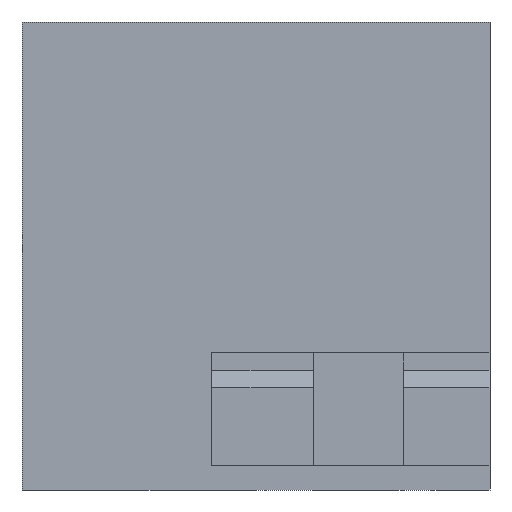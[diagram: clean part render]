
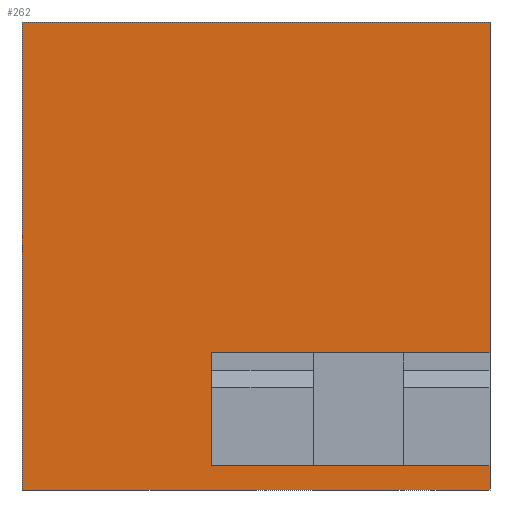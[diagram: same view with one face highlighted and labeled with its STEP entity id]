
A CAD part, left-side view. The second image highlights one B-rep face of the part: STEP entity #262.
In plain terms, the highlighted planar face has unit normal (-1, 0, 0).
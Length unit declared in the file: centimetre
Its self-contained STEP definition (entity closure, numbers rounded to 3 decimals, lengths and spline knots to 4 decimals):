
#3 = LINE ( 'NONE', #930, #126 ) ;
#19 = VERTEX_POINT ( 'NONE', #541 ) ;
#39 = PLANE ( 'NONE',  #653 ) ;
#46 = DIRECTION ( 'NONE',  ( 0., 0., -1. ) ) ;
#60 = CARTESIAN_POINT ( 'NONE',  ( 0., 594.4947, 51.8171 ) ) ;
#65 = VERTEX_POINT ( 'NONE', #144 ) ;
#74 = VERTEX_POINT ( 'NONE', #60 ) ;
#86 = ORIENTED_EDGE ( 'NONE', *, *, #1034, .T. ) ;
#90 = LINE ( 'NONE', #964, #710 ) ;
#91 = VECTOR ( 'NONE', #902, 100. ) ;
#102 = EDGE_CURVE ( 'NONE', #842, #74, #90, .T. ) ;
#108 = VERTEX_POINT ( 'NONE', #500 ) ;
#125 = DIRECTION ( 'NONE',  ( 0., -1., 0. ) ) ;
#126 = VECTOR ( 'NONE', #819, 100. ) ;
#135 = ORIENTED_EDGE ( 'NONE', *, *, #957, .T. ) ;
#144 = CARTESIAN_POINT ( 'NONE',  ( 0., 1000., 1000. ) ) ;
#162 = CARTESIAN_POINT ( 'NONE',  ( 0., 1000., 1000. ) ) ;
#173 = FACE_OUTER_BOUND ( 'NONE', #213, .T. ) ;
#207 = EDGE_CURVE ( 'NONE', #108, #19, #632, .T. ) ;
#213 = EDGE_LOOP ( 'NONE', ( #962, #830, #1032, #824, #86, #135, #1074, #872 ) ) ;
#229 = EDGE_CURVE ( 'NONE', #74, #1003, #850, .T. ) ;
#238 = CARTESIAN_POINT ( 'NONE',  ( 0., 0., 51.8171 ) ) ;
#243 = LINE ( 'NONE', #162, #420 ) ;
#262 = ADVANCED_FACE ( 'NONE', ( #173 ), #39, .F. ) ;
#296 = EDGE_CURVE ( 'NONE', #842, #19, #624, .T. ) ;
#352 = VERTEX_POINT ( 'NONE', #578 ) ;
#372 = DIRECTION ( 'NONE',  ( 0., 0., -1. ) ) ;
#397 = VECTOR ( 'NONE', #46, 100. ) ;
#401 = LINE ( 'NONE', #591, #91 ) ;
#420 = VECTOR ( 'NONE', #482, 100. ) ;
#428 = CARTESIAN_POINT ( 'NONE',  ( 0., 0., 1000. ) ) ;
#429 = DIRECTION ( 'NONE',  ( 0., -1., 0. ) ) ;
#455 = DIRECTION ( 'NONE',  ( 1., 0., 0. ) ) ;
#482 = DIRECTION ( 'NONE',  ( 0., 0., -1. ) ) ;
#500 = CARTESIAN_POINT ( 'NONE',  ( 0., 0., 1000. ) ) ;
#528 = CARTESIAN_POINT ( 'NONE',  ( 0., 0., 1000. ) ) ;
#532 = CARTESIAN_POINT ( 'NONE',  ( 0., 1000., 1000. ) ) ;
#538 = CARTESIAN_POINT ( 'NONE',  ( 0., 594.4947, 293.6493 ) ) ;
#541 = CARTESIAN_POINT ( 'NONE',  ( 0., 0., 293.6493 ) ) ;
#543 = VECTOR ( 'NONE', #429, 100. ) ;
#578 = CARTESIAN_POINT ( 'NONE',  ( 0., 0., 0. ) ) ;
#591 = CARTESIAN_POINT ( 'NONE',  ( 0., 1000., 0. ) ) ;
#595 = LINE ( 'NONE', #428, #938 ) ;
#599 = EDGE_CURVE ( 'NONE', #1003, #352, #595, .T. ) ;
#624 = LINE ( 'NONE', #538, #641 ) ;
#632 = LINE ( 'NONE', #528, #397 ) ;
#641 = VECTOR ( 'NONE', #125, 100. ) ;
#653 = AXIS2_PLACEMENT_3D ( 'NONE', #532, #455, #372 ) ;
#704 = CARTESIAN_POINT ( 'NONE',  ( 0., 594.4947, 293.6493 ) ) ;
#710 = VECTOR ( 'NONE', #1015, 100. ) ;
#776 = CARTESIAN_POINT ( 'NONE',  ( 0., 594.4947, 51.8171 ) ) ;
#819 = DIRECTION ( 'NONE',  ( 0., -1., 0. ) ) ;
#824 = ORIENTED_EDGE ( 'NONE', *, *, #967, .F. ) ;
#830 = ORIENTED_EDGE ( 'NONE', *, *, #296, .T. ) ;
#842 = VERTEX_POINT ( 'NONE', #704 ) ;
#850 = LINE ( 'NONE', #776, #543 ) ;
#872 = ORIENTED_EDGE ( 'NONE', *, *, #229, .F. ) ;
#883 = VERTEX_POINT ( 'NONE', #1018 ) ;
#902 = DIRECTION ( 'NONE',  ( 0., -1., 0. ) ) ;
#930 = CARTESIAN_POINT ( 'NONE',  ( 0., 1000., 1000. ) ) ;
#938 = VECTOR ( 'NONE', #994, 100. ) ;
#957 = EDGE_CURVE ( 'NONE', #883, #352, #401, .T. ) ;
#962 = ORIENTED_EDGE ( 'NONE', *, *, #102, .F. ) ;
#964 = CARTESIAN_POINT ( 'NONE',  ( 0., 594.4947, 51.8171 ) ) ;
#967 = EDGE_CURVE ( 'NONE', #65, #108, #3, .T. ) ;
#994 = DIRECTION ( 'NONE',  ( 0., 0., -1. ) ) ;
#1003 = VERTEX_POINT ( 'NONE', #238 ) ;
#1015 = DIRECTION ( 'NONE',  ( 0., 0., -1. ) ) ;
#1018 = CARTESIAN_POINT ( 'NONE',  ( 0., 1000., 0. ) ) ;
#1032 = ORIENTED_EDGE ( 'NONE', *, *, #207, .F. ) ;
#1034 = EDGE_CURVE ( 'NONE', #65, #883, #243, .T. ) ;
#1074 = ORIENTED_EDGE ( 'NONE', *, *, #599, .F. ) ;
